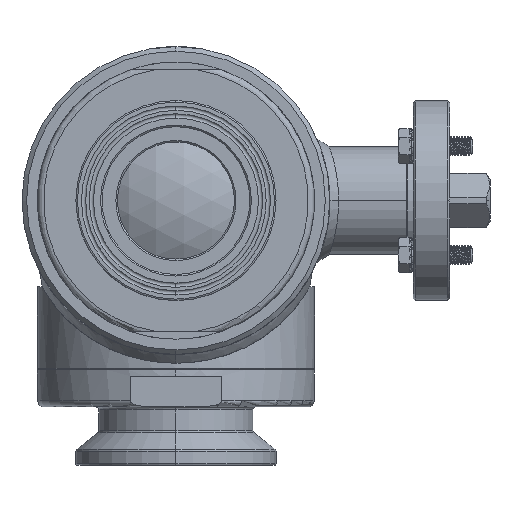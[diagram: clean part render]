
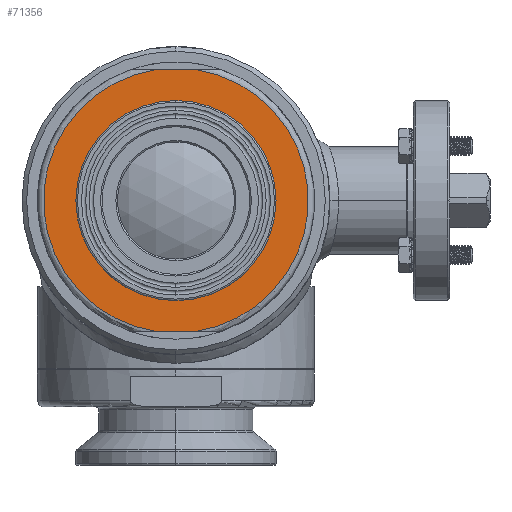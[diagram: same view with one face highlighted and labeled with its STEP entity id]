
A CAD part, front view. The second image highlights one B-rep face of the part: STEP entity #71356.
In plain terms, the highlighted planar face has unit normal (0, -1, 0).
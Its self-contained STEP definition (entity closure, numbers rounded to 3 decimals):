
#70663=CARTESIAN_POINT('',(-6.538,-67.,-42.5));
#70670=CARTESIAN_POINT('',(-6.538,-67.,42.5));
#70690=CARTESIAN_POINT('',(0.,-67.,0.));
#70691=DIRECTION('',(0.,1.,0.));
#70692=DIRECTION('',(-0.152,0.,-0.988));
#70693=AXIS2_PLACEMENT_3D('',#70690,#70691,#70692);
#70730=CARTESIAN_POINT('',(6.538,-67.,-42.5));
#70750=CARTESIAN_POINT('',(0.,-67.,0.));
#70751=DIRECTION('',(0.,-1.,0.));
#70752=DIRECTION('',(0.152,0.,-0.988));
#70753=AXIS2_PLACEMENT_3D('',#70750,#70751,#70752);
#70773=CARTESIAN_POINT('',(6.538,-67.,42.5));
#70780=DIRECTION('',(1.,0.,0.));
#70781=VECTOR('',#70780,13.077);
#70782=CARTESIAN_POINT('',(-6.538,-67.,-42.5));
#70783=LINE('',#70782,#70781);
#70784=DIRECTION('',(1.,0.,0.));
#70785=VECTOR('',#70784,13.077);
#70786=CARTESIAN_POINT('',(-6.538,-67.,42.5));
#70787=LINE('',#70786,#70785);
#70798=CARTESIAN_POINT('',(0.,-67.,0.));
#70799=DIRECTION('',(0.,1.,0.));
#70800=DIRECTION('',(0.,0.,-1.));
#70801=AXIS2_PLACEMENT_3D('',#70798,#70799,#70800);
#71097=CARTESIAN_POINT('',(0.,-67.,0.));
#71098=DIRECTION('',(0.,-1.,0.));
#71099=DIRECTION('',(0.,0.,-1.));
#71100=AXIS2_PLACEMENT_3D('',#71097,#71098,#71099);
#71140=VERTEX_POINT('',#70730);
#71141=VERTEX_POINT('',#70773);
#71142=VERTEX_POINT('',#70663);
#71143=VERTEX_POINT('',#70670);
#71176=CARTESIAN_POINT('',(0.,-67.,-26.));
#71177=CARTESIAN_POINT('',(0.,-67.,26.));
#71178=VERTEX_POINT('',#71176);
#71179=VERTEX_POINT('',#71177);
#71339=CARTESIAN_POINT('',(0.,-67.,0.));
#71340=DIRECTION('',(0.,1.,0.));
#71341=DIRECTION('',(0.,0.,1.));
#71342=AXIS2_PLACEMENT_3D('',#71339,#71340,#71341);
#71343=PLANE('',#71342);
#71344=ORIENTED_EDGE('',*,*,#71332,.F.);
#71345=ORIENTED_EDGE('',*,*,#71252,.F.);
#71346=ORIENTED_EDGE('',*,*,#71272,.T.);
#71347=ORIENTED_EDGE('',*,*,#71289,.T.);
#71348=EDGE_LOOP('',(#71344,#71345,#71346,#71347));
#71349=FACE_OUTER_BOUND('',#71348,.F.);
#71351=ORIENTED_EDGE('',*,*,#71350,.F.);
#71353=ORIENTED_EDGE('',*,*,#71352,.T.);
#71354=EDGE_LOOP('',(#71351,#71353));
#71355=FACE_BOUND('',#71354,.F.);
#71356=ADVANCED_FACE('',(#71349,#71355),#71343,.F.);
#70694=CIRCLE('',#70693,43.);
#70754=CIRCLE('',#70753,43.);
#70802=CIRCLE('',#70801,26.);
#71101=CIRCLE('',#71100,26.);
#71252=EDGE_CURVE('',#71142,#71140,#70783,.T.);
#71272=EDGE_CURVE('',#71142,#71143,#70694,.T.);
#71289=EDGE_CURVE('',#71143,#71141,#70787,.T.);
#71332=EDGE_CURVE('',#71140,#71141,#70754,.T.);
#71350=EDGE_CURVE('',#71178,#71179,#70802,.T.);
#71352=EDGE_CURVE('',#71178,#71179,#71101,.T.);
